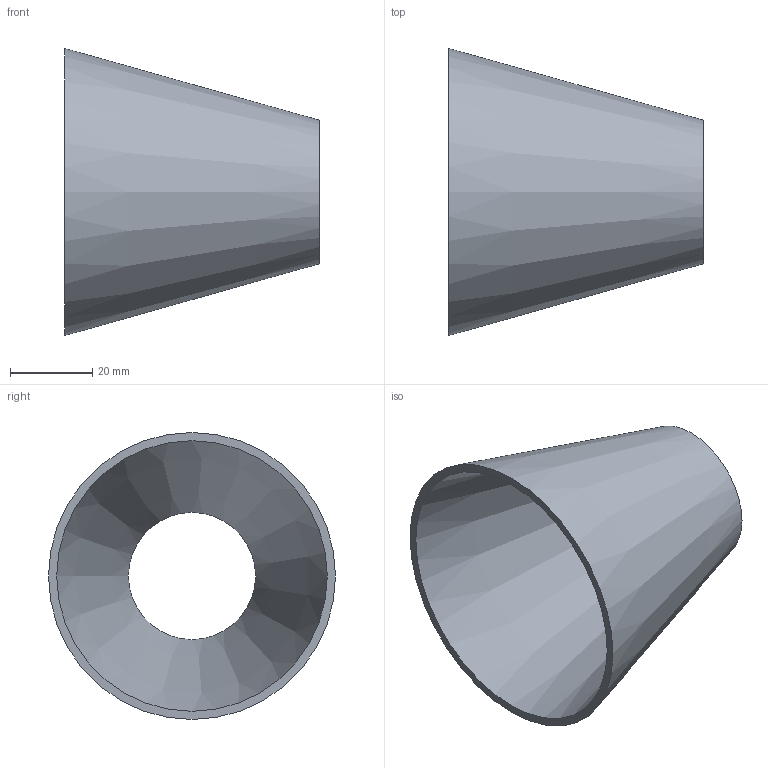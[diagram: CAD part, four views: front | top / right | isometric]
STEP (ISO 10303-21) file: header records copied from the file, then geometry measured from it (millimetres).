
FILE_DESCRIPTION(('FreeCAD Model'),'2;1');
FILE_NAME( '/home/martin/Documents/proyect/accesorios/stp/red-con_DN65-32.step', '2017-12-31T12:23:22',('Author'),(''), 'Open CASCADE STEP processor 6.8','FreeCAD','Unknown');
FILE_SCHEMA(('AUTOMOTIVE_DESIGN_CC2 { 1 2 10303 214 -1 1 5 4 }'));
Length unit declared in the file: millimetre
Products named in the file (1): red-con_DN65-32
Bounding box: 62 x 70 x 70 mm (x, y, z)
Volume: 19672.7 mm3; surface area: 21075.9 mm2
Topology: 1 solids, 1 shells, 4 faces, 6 edges, 4 vertices
Faces by surface type: cone 2, plane 2
Entity records: 191 total; most frequent: CARTESIAN_POINT 33, DIRECTION 26, ORIENTED_EDGE 12, PCURVE 12, DEFINITIONAL_REPRESENTATION 12, AXIS2_PLACEMENT_3D 9, CIRCLE 8, FACE_BOUND 6
